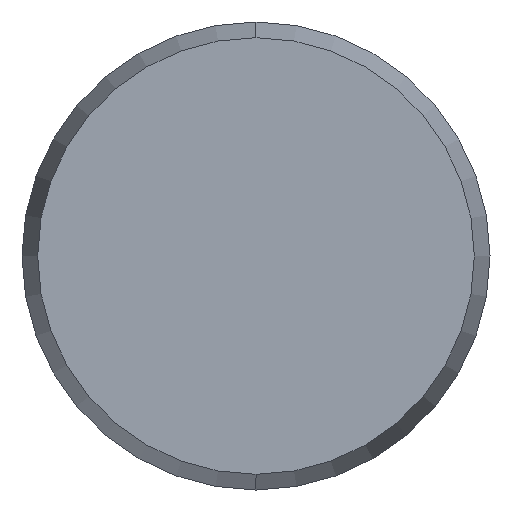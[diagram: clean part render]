
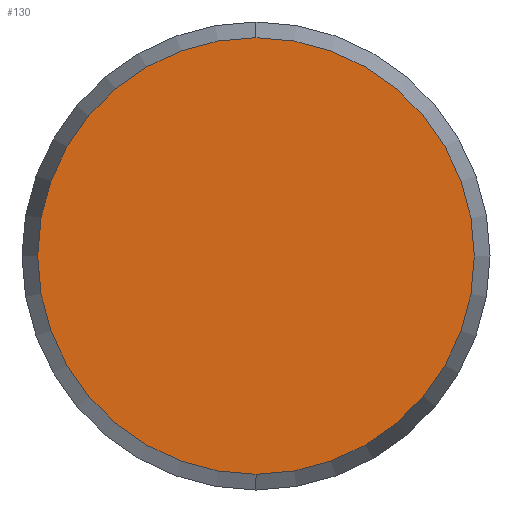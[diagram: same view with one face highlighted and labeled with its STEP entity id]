
A CAD part, left-side view. The second image highlights one B-rep face of the part: STEP entity #130.
In plain terms, the highlighted planar face has unit normal (-1, 0, 0).
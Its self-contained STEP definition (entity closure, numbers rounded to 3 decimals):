
#29 = CARTESIAN_POINT ( 'NONE',  ( -12., 0., -7.464 ) ) ;
#30 = CARTESIAN_POINT ( 'NONE',  ( -12., 0., 7.464 ) ) ;
#31 = DIRECTION ( 'NONE',  ( 0., 0., -1. ) ) ;
#32 = DIRECTION ( 'NONE',  ( 1., 0., 0. ) ) ;
#33 = CARTESIAN_POINT ( 'NONE',  ( -12., 0., 0. ) ) ;
#34 = AXIS2_PLACEMENT_3D ( 'NONE', #33, #32, #31 ) ;
#35 = CIRCLE ( 'NONE', #34, 7.464 ) ;
#114 = DIRECTION ( 'NONE',  ( 0., 0., -1. ) ) ;
#115 = DIRECTION ( 'NONE',  ( 1., 0., 0. ) ) ;
#116 = CARTESIAN_POINT ( 'NONE',  ( -12., 0., 0. ) ) ;
#117 = AXIS2_PLACEMENT_3D ( 'NONE', #116, #115, #114 ) ;
#118 = PLANE ( 'NONE',  #117 ) ;
#119 = FACE_OUTER_BOUND ( 'NONE', #131, .T. ) ;
#120 = DIRECTION ( 'NONE',  ( 0., 0., -1. ) ) ;
#121 = DIRECTION ( 'NONE',  ( 1., 0., 0. ) ) ;
#122 = CARTESIAN_POINT ( 'NONE',  ( -12., 0., 0. ) ) ;
#123 = AXIS2_PLACEMENT_3D ( 'NONE', #122, #121, #120 ) ;
#124 = CIRCLE ( 'NONE', #123, 7.464 ) ;
#127 = EDGE_CURVE ( 'NONE', #182, #181, #124, .T. ) ;
#130 = ADVANCED_FACE ( 'NONE', ( #119 ), #118, .F. ) ;
#131 = EDGE_LOOP ( 'NONE', ( #132, #133 ) ) ;
#132 = ORIENTED_EDGE ( 'NONE', *, *, #180, .F. ) ;
#133 = ORIENTED_EDGE ( 'NONE', *, *, #127, .F. ) ;
#180 = EDGE_CURVE ( 'NONE', #181, #182, #35, .T. ) ;
#181 = VERTEX_POINT ( 'NONE', #30 ) ;
#182 = VERTEX_POINT ( 'NONE', #29 ) ;
